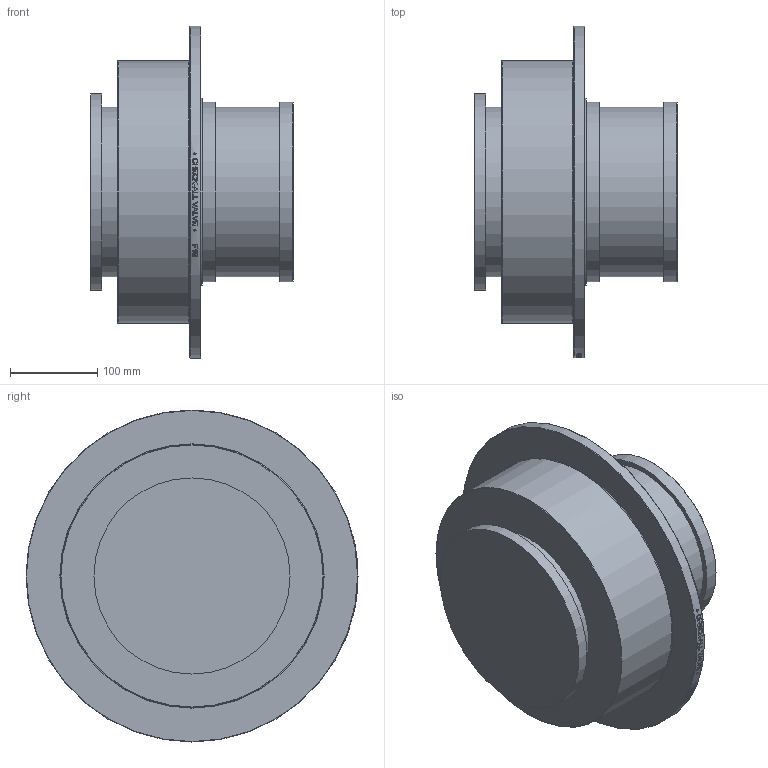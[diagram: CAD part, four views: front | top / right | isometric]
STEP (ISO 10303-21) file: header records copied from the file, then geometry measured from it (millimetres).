
FILE_DESCRIPTION( ( 'Unknown' ), '1' );
FILE_NAME( 'Y:/ENGR/3D Solid Edge Models/F1/F1 STEP/F1S.stp', 'Unknown', ( 'Unknown' ), ( 'Unknown' ), 'PSStep 14.0', 'Unknown', ' ' );
FILE_SCHEMA( ( 'AUTOMOTIVE_DESIGN { 1 0 10303 214 1 1 1 1 }' ) );
Length unit declared in the file: millimetre
Products named in the file (1): 1
Bounding box: 232.54 x 381 x 381 mm (x, y, z)
Volume: 11703596.4 mm3; surface area: 432943 mm2
Topology: 1 solids, 1 shells, 209 faces, 525 edges, 348 vertices
Faces by surface type: plane 125, bspline 47, cylinder 30, torus 4, cone 3
Full cylindrical faces by diameter (mm): 194.818 x2, 206.375 x2, 225.044 x1, 301.777 x1, 381 x1
Entity records: 10720 total; most frequent: CARTESIAN_POINT 5157, ORIENTED_EDGE 1022, EDGE_CURVE 511, B_SPLINE_CURVE_WITH_KNOTS 489, DIRECTION 370, VERTEX_POINT 348, EDGE_LOOP 253, FACE_OUTER_BOUND 220
